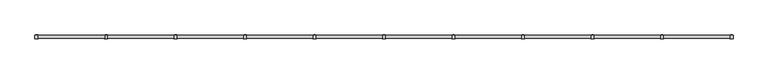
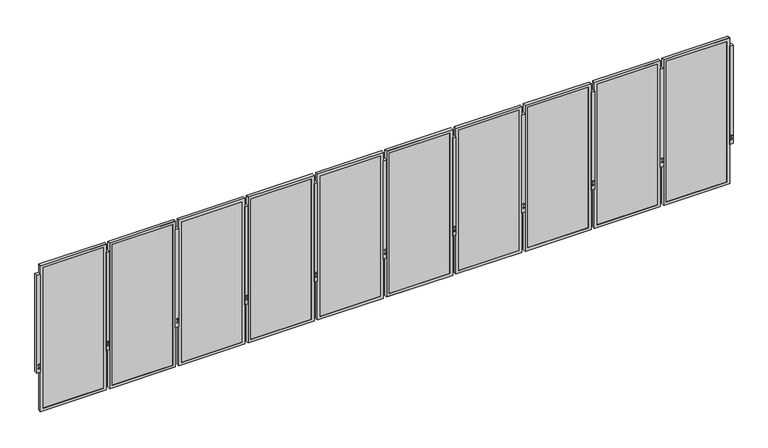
"""IFC4 building model written with IfcOpenShell, lengths in millimetres: railing geometry, Railing - Amico Architectural - Expanded Mesh Railing - Apex01."""

from ifc_helpers import new_model, si_unit, frame, origin, place, context, project, spatial, polyline, outline, extrude, faceted_brep, source, transform, mapped, element, save


def railing_5d727bff(model_context):
    return source(origin(), model_context, "Body", "SolidModel", [
        extrude(outline(polyline([(-18725.9443496, -22701.6627911), (-18675.1443496, -22701.6627911), (-18675.1443496, -22752.4627911), (-18725.9443496, -22752.4627911), (-18725.9443496, -22701.6627911)])), frame((0.0, 0.0, -609.6), z_axis=(0.0, 0.0, 1.0), x_axis=(1.0, 0.0, 0.0)), (0.0, 0.0, 1.0), 1524.0),
        extrude(outline(polyline([(-530.1129981, -18710.9649198), (-542.3802561, -18707.677918), (-545.667258, -18695.41066), (-536.6870019, -18686.4304038), (-524.4197439, -18689.7174057), (-521.132742, -18701.9846637), (-530.1129981, -18710.9649198)])), frame((0.0, -22754.3094789, 0.0), z_axis=(0.0, 1.0, 0.0), x_axis=(0.0, 0.0, 1.0)), (0.0, 0.0, 1.0), 54.4933756),
        extrude(outline(polyline([(-479.3129981, -18710.9649198), (-491.5802561, -18707.677918), (-494.867258, -18695.41066), (-485.8870019, -18686.4304038), (-473.6197439, -18689.7174057), (-470.332742, -18701.9846637), (-479.3129981, -18710.9649198)])), frame((0.0, -22754.3094789, 0.0), z_axis=(0.0, 1.0, 0.0), x_axis=(0.0, 0.0, 1.0)), (0.0, 0.0, 1.0), 54.4933756),
        faceted_brep([(-19692.348803, -22748.8559911, -1222.375), (-18723.973803, -22748.8559911, -1222.375), (-18723.973803, -22748.8559911, 1044.575), (-19692.348803, -22748.8559911, 1044.575), (-19651.073803, -22748.8559911, 1003.3), (-18765.248803, -22748.8559911, 1003.3), (-18765.248803, -22748.8559911, -1181.1), (-19651.073803, -22748.8559911, -1181.1), (-19651.073803, -22746.1127911, 1003.3), (-19651.073803, -22746.1127911, -1181.1), (-19692.348803, -22704.9826946, 1044.575), (-19692.348803, -22704.9826946, -1222.375), (-19689.173803, -22704.9826946, 1041.4), (-19689.173803, -22746.1127911, 1041.4), (-19689.173803, -22746.1127911, -1219.2), (-19689.173803, -22704.9826946, -1219.2), (-18765.248803, -22746.1127911, -1181.1), (-18723.973803, -22704.9826946, -1222.375), (-18727.148803, -22746.1127911, -1219.2), (-18727.148803, -22704.9826946, -1219.2), (-18765.248803, -22746.1127911, 1003.3), (-18723.973803, -22704.9826946, 1044.575), (-18727.148803, -22746.1127911, 1041.4), (-18727.148803, -22704.9826946, 1041.4)], [[[0, 1, 2, 3], [4, 5, 6, 7]], [[8, 4, 7, 9]], [[3, 10, 11, 0]], [[12, 13, 14, 15]], [[9, 7, 6, 16]], [[0, 11, 17, 1]], [[15, 14, 18, 19]], [[16, 6, 5, 20]], [[1, 17, 21, 2]], [[19, 18, 22, 23]], [[20, 5, 4, 8]], [[10, 21, 17, 11], [15, 19, 23, 12]], [[2, 21, 10, 3]], [[13, 22, 18, 14], [9, 16, 20, 8]], [[23, 22, 13, 12]]]),
        extrude(outline(polyline([(-19689.173803, -22736.5877911), (-18727.148803, -22736.5877911), (-18727.148803, -22746.1127911), (-19689.173803, -22746.1127911), (-19689.173803, -22736.5877911)])), frame((0.0, 0.0, -1219.2), z_axis=(0.0, 0.0, 1.0), x_axis=(1.0, 0.0, 0.0)), (0.0, 0.0, 1.0), 2260.6),
        extrude(outline(polyline([(-19743.5318496, -22701.6627911), (-19692.7318496, -22701.6627911), (-19692.7318496, -22752.4627911), (-19743.5318496, -22752.4627911), (-19743.5318496, -22701.6627911)])), frame((0.0, 0.0, -609.6), z_axis=(0.0, 0.0, 1.0), x_axis=(1.0, 0.0, 0.0)), (0.0, 0.0, 1.0), 1524.0),
        extrude(outline(polyline([(-530.1129981, -19728.5524198), (-542.3802561, -19725.265418), (-545.667258, -19712.99816), (-536.6870019, -19704.0179038), (-524.4197439, -19707.3049057), (-521.132742, -19719.5721637), (-530.1129981, -19728.5524198)])), frame((0.0, -22754.3094789, 0.0), z_axis=(0.0, 1.0, 0.0), x_axis=(0.0, 0.0, 1.0)), (0.0, 0.0, 1.0), 54.4933756),
        extrude(outline(polyline([(-479.3129981, -19728.5524198), (-491.5802561, -19725.265418), (-494.867258, -19712.99816), (-485.8870019, -19704.0179038), (-473.6197439, -19707.3049057), (-470.332742, -19719.5721637), (-479.3129981, -19728.5524198)])), frame((0.0, -22754.3094789, 0.0), z_axis=(0.0, 1.0, 0.0), x_axis=(0.0, 0.0, 1.0)), (0.0, 0.0, 1.0), 54.4933756),
        faceted_brep([(-20709.936303, -22748.8559911, -1222.375), (-19741.561303, -22748.8559911, -1222.375), (-19741.561303, -22748.8559911, 1044.575), (-20709.936303, -22748.8559911, 1044.575), (-20668.661303, -22748.8559911, 1003.3), (-19782.836303, -22748.8559911, 1003.3), (-19782.836303, -22748.8559911, -1181.1), (-20668.661303, -22748.8559911, -1181.1), (-20668.661303, -22746.1127911, 1003.3), (-20668.661303, -22746.1127911, -1181.1), (-20709.936303, -22704.9826946, 1044.575), (-20709.936303, -22704.9826946, -1222.375), (-20706.761303, -22704.9826946, 1041.4), (-20706.761303, -22746.1127911, 1041.4), (-20706.761303, -22746.1127911, -1219.2), (-20706.761303, -22704.9826946, -1219.2), (-19782.836303, -22746.1127911, -1181.1), (-19741.561303, -22704.9826946, -1222.375), (-19744.736303, -22746.1127911, -1219.2), (-19744.736303, -22704.9826946, -1219.2), (-19782.836303, -22746.1127911, 1003.3), (-19741.561303, -22704.9826946, 1044.575), (-19744.736303, -22746.1127911, 1041.4), (-19744.736303, -22704.9826946, 1041.4)], [[[0, 1, 2, 3], [4, 5, 6, 7]], [[8, 4, 7, 9]], [[3, 10, 11, 0]], [[12, 13, 14, 15]], [[9, 7, 6, 16]], [[0, 11, 17, 1]], [[15, 14, 18, 19]], [[16, 6, 5, 20]], [[1, 17, 21, 2]], [[19, 18, 22, 23]], [[20, 5, 4, 8]], [[10, 21, 17, 11], [15, 19, 23, 12]], [[2, 21, 10, 3]], [[13, 22, 18, 14], [9, 16, 20, 8]], [[23, 22, 13, 12]]]),
        extrude(outline(polyline([(-20706.761303, -22736.5877911), (-19744.736303, -22736.5877911), (-19744.736303, -22746.1127911), (-20706.761303, -22746.1127911), (-20706.761303, -22736.5877911)])), frame((0.0, 0.0, -1219.2), z_axis=(0.0, 0.0, 1.0), x_axis=(1.0, 0.0, 0.0)), (0.0, 0.0, 1.0), 2260.6),
        extrude(outline(polyline([(-20761.1193496, -22701.6627911), (-20710.3193496, -22701.6627911), (-20710.3193496, -22752.4627911), (-20761.1193496, -22752.4627911), (-20761.1193496, -22701.6627911)])), frame((0.0, 0.0, -609.6), z_axis=(0.0, 0.0, 1.0), x_axis=(1.0, 0.0, 0.0)), (0.0, 0.0, 1.0), 1524.0),
        extrude(outline(polyline([(-530.1129981, -20746.1399198), (-542.3802561, -20742.852918), (-545.667258, -20730.58566), (-536.6870019, -20721.6054038), (-524.4197439, -20724.8924057), (-521.132742, -20737.1596637), (-530.1129981, -20746.1399198)])), frame((0.0, -22754.3094789, 0.0), z_axis=(0.0, 1.0, 0.0), x_axis=(0.0, 0.0, 1.0)), (0.0, 0.0, 1.0), 54.4933756),
        extrude(outline(polyline([(-479.3129981, -20746.1399198), (-491.5802561, -20742.852918), (-494.867258, -20730.58566), (-485.8870019, -20721.6054038), (-473.6197439, -20724.8924057), (-470.332742, -20737.1596637), (-479.3129981, -20746.1399198)])), frame((0.0, -22754.3094789, 0.0), z_axis=(0.0, 1.0, 0.0), x_axis=(0.0, 0.0, 1.0)), (0.0, 0.0, 1.0), 54.4933756),
        faceted_brep([(-21727.523803, -22748.8559911, -1222.375), (-20759.148803, -22748.8559911, -1222.375), (-20759.148803, -22748.8559911, 1044.575), (-21727.523803, -22748.8559911, 1044.575), (-21686.248803, -22748.8559911, 1003.3), (-20800.423803, -22748.8559911, 1003.3), (-20800.423803, -22748.8559911, -1181.1), (-21686.248803, -22748.8559911, -1181.1), (-21686.248803, -22746.1127911, 1003.3), (-21686.248803, -22746.1127911, -1181.1), (-21727.523803, -22704.9826946, 1044.575), (-21727.523803, -22704.9826946, -1222.375), (-21724.348803, -22704.9826946, 1041.4), (-21724.348803, -22746.1127911, 1041.4), (-21724.348803, -22746.1127911, -1219.2), (-21724.348803, -22704.9826946, -1219.2), (-20800.423803, -22746.1127911, -1181.1), (-20759.148803, -22704.9826946, -1222.375), (-20762.323803, -22746.1127911, -1219.2), (-20762.323803, -22704.9826946, -1219.2), (-20800.423803, -22746.1127911, 1003.3), (-20759.148803, -22704.9826946, 1044.575), (-20762.323803, -22746.1127911, 1041.4), (-20762.323803, -22704.9826946, 1041.4)], [[[0, 1, 2, 3], [4, 5, 6, 7]], [[8, 4, 7, 9]], [[3, 10, 11, 0]], [[12, 13, 14, 15]], [[9, 7, 6, 16]], [[0, 11, 17, 1]], [[15, 14, 18, 19]], [[16, 6, 5, 20]], [[1, 17, 21, 2]], [[19, 18, 22, 23]], [[20, 5, 4, 8]], [[10, 21, 17, 11], [15, 19, 23, 12]], [[2, 21, 10, 3]], [[13, 22, 18, 14], [9, 16, 20, 8]], [[23, 22, 13, 12]]]),
        extrude(outline(polyline([(-21724.348803, -22736.5877911), (-20762.323803, -22736.5877911), (-20762.323803, -22746.1127911), (-21724.348803, -22746.1127911), (-21724.348803, -22736.5877911)])), frame((0.0, 0.0, -1219.2), z_axis=(0.0, 0.0, 1.0), x_axis=(1.0, 0.0, 0.0)), (0.0, 0.0, 1.0), 2260.6),
        extrude(outline(polyline([(-21778.7068496, -22701.6627911), (-21727.9068496, -22701.6627911), (-21727.9068496, -22752.4627911), (-21778.7068496, -22752.4627911), (-21778.7068496, -22701.6627911)])), frame((0.0, 0.0, -609.6), z_axis=(0.0, 0.0, 1.0), x_axis=(1.0, 0.0, 0.0)), (0.0, 0.0, 1.0), 1524.0),
        extrude(outline(polyline([(-530.1129981, -21763.7274198), (-542.3802561, -21760.440418), (-545.667258, -21748.17316), (-536.6870019, -21739.1929038), (-524.4197439, -21742.4799057), (-521.132742, -21754.7471637), (-530.1129981, -21763.7274198)])), frame((0.0, -22754.3094789, 0.0), z_axis=(0.0, 1.0, 0.0), x_axis=(0.0, 0.0, 1.0)), (0.0, 0.0, 1.0), 54.4933756),
        extrude(outline(polyline([(-479.3129981, -21763.7274198), (-491.5802561, -21760.440418), (-494.867258, -21748.17316), (-485.8870019, -21739.1929038), (-473.6197439, -21742.4799057), (-470.332742, -21754.7471637), (-479.3129981, -21763.7274198)])), frame((0.0, -22754.3094789, 0.0), z_axis=(0.0, 1.0, 0.0), x_axis=(0.0, 0.0, 1.0)), (0.0, 0.0, 1.0), 54.4933756),
        faceted_brep([(-22745.111303, -22748.8559911, -1222.375), (-21776.736303, -22748.8559911, -1222.375), (-21776.736303, -22748.8559911, 1044.575), (-22745.111303, -22748.8559911, 1044.575), (-22703.836303, -22748.8559911, 1003.3), (-21818.011303, -22748.8559911, 1003.3), (-21818.011303, -22748.8559911, -1181.1), (-22703.836303, -22748.8559911, -1181.1), (-22703.836303, -22746.1127911, 1003.3), (-22703.836303, -22746.1127911, -1181.1), (-22745.111303, -22704.9826946, 1044.575), (-22745.111303, -22704.9826946, -1222.375), (-22741.936303, -22704.9826946, 1041.4), (-22741.936303, -22746.1127911, 1041.4), (-22741.936303, -22746.1127911, -1219.2), (-22741.936303, -22704.9826946, -1219.2), (-21818.011303, -22746.1127911, -1181.1), (-21776.736303, -22704.9826946, -1222.375), (-21779.911303, -22746.1127911, -1219.2), (-21779.911303, -22704.9826946, -1219.2), (-21818.011303, -22746.1127911, 1003.3), (-21776.736303, -22704.9826946, 1044.575), (-21779.911303, -22746.1127911, 1041.4), (-21779.911303, -22704.9826946, 1041.4)], [[[0, 1, 2, 3], [4, 5, 6, 7]], [[8, 4, 7, 9]], [[3, 10, 11, 0]], [[12, 13, 14, 15]], [[9, 7, 6, 16]], [[0, 11, 17, 1]], [[15, 14, 18, 19]], [[16, 6, 5, 20]], [[1, 17, 21, 2]], [[19, 18, 22, 23]], [[20, 5, 4, 8]], [[10, 21, 17, 11], [15, 19, 23, 12]], [[2, 21, 10, 3]], [[13, 22, 18, 14], [9, 16, 20, 8]], [[23, 22, 13, 12]]]),
        extrude(outline(polyline([(-22741.936303, -22736.5877911), (-21779.911303, -22736.5877911), (-21779.911303, -22746.1127911), (-22741.936303, -22746.1127911), (-22741.936303, -22736.5877911)])), frame((0.0, 0.0, -1219.2), z_axis=(0.0, 0.0, 1.0), x_axis=(1.0, 0.0, 0.0)), (0.0, 0.0, 1.0), 2260.6),
        extrude(outline(polyline([(-22796.2943496, -22701.6627911), (-22745.4943496, -22701.6627911), (-22745.4943496, -22752.4627911), (-22796.2943496, -22752.4627911), (-22796.2943496, -22701.6627911)])), frame((0.0, 0.0, -609.6), z_axis=(0.0, 0.0, 1.0), x_axis=(1.0, 0.0, 0.0)), (0.0, 0.0, 1.0), 1524.0),
        extrude(outline(polyline([(-530.1129981, -22781.3149198), (-542.3802561, -22778.027918), (-545.667258, -22765.76066), (-536.6870019, -22756.7804038), (-524.4197439, -22760.0674057), (-521.132742, -22772.3346637), (-530.1129981, -22781.3149198)])), frame((0.0, -22754.3094789, 0.0), z_axis=(0.0, 1.0, 0.0), x_axis=(0.0, 0.0, 1.0)), (0.0, 0.0, 1.0), 54.4933756),
        extrude(outline(polyline([(-479.3129981, -22781.3149198), (-491.5802561, -22778.027918), (-494.867258, -22765.76066), (-485.8870019, -22756.7804038), (-473.6197439, -22760.0674057), (-470.332742, -22772.3346637), (-479.3129981, -22781.3149198)])), frame((0.0, -22754.3094789, 0.0), z_axis=(0.0, 1.0, 0.0), x_axis=(0.0, 0.0, 1.0)), (0.0, 0.0, 1.0), 54.4933756),
        faceted_brep([(-23762.698803, -22748.8559911, -1222.375), (-22794.323803, -22748.8559911, -1222.375), (-22794.323803, -22748.8559911, 1044.575), (-23762.698803, -22748.8559911, 1044.575), (-23721.423803, -22748.8559911, 1003.3), (-22835.598803, -22748.8559911, 1003.3), (-22835.598803, -22748.8559911, -1181.1), (-23721.423803, -22748.8559911, -1181.1), (-23721.423803, -22746.1127911, 1003.3), (-23721.423803, -22746.1127911, -1181.1), (-23762.698803, -22704.9826946, 1044.575), (-23762.698803, -22704.9826946, -1222.375), (-23759.523803, -22704.9826946, 1041.4), (-23759.523803, -22746.1127911, 1041.4), (-23759.523803, -22746.1127911, -1219.2), (-23759.523803, -22704.9826946, -1219.2), (-22835.598803, -22746.1127911, -1181.1), (-22794.323803, -22704.9826946, -1222.375), (-22797.498803, -22746.1127911, -1219.2), (-22797.498803, -22704.9826946, -1219.2), (-22835.598803, -22746.1127911, 1003.3), (-22794.323803, -22704.9826946, 1044.575), (-22797.498803, -22746.1127911, 1041.4), (-22797.498803, -22704.9826946, 1041.4)], [[[0, 1, 2, 3], [4, 5, 6, 7]], [[8, 4, 7, 9]], [[3, 10, 11, 0]], [[12, 13, 14, 15]], [[9, 7, 6, 16]], [[0, 11, 17, 1]], [[15, 14, 18, 19]], [[16, 6, 5, 20]], [[1, 17, 21, 2]], [[19, 18, 22, 23]], [[20, 5, 4, 8]], [[10, 21, 17, 11], [15, 19, 23, 12]], [[2, 21, 10, 3]], [[13, 22, 18, 14], [9, 16, 20, 8]], [[23, 22, 13, 12]]]),
        extrude(outline(polyline([(-23759.523803, -22736.5877911), (-22797.498803, -22736.5877911), (-22797.498803, -22746.1127911), (-23759.523803, -22746.1127911), (-23759.523803, -22736.5877911)])), frame((0.0, 0.0, -1219.2), z_axis=(0.0, 0.0, 1.0), x_axis=(1.0, 0.0, 0.0)), (0.0, 0.0, 1.0), 2260.6),
        extrude(outline(polyline([(-23813.8818496, -22701.6627911), (-23763.0818496, -22701.6627911), (-23763.0818496, -22752.4627911), (-23813.8818496, -22752.4627911), (-23813.8818496, -22701.6627911)])), frame((0.0, 0.0, -609.6), z_axis=(0.0, 0.0, 1.0), x_axis=(1.0, 0.0, 0.0)), (0.0, 0.0, 1.0), 1524.0),
        extrude(outline(polyline([(-530.1129981, -23798.9024198), (-542.3802561, -23795.615418), (-545.667258, -23783.34816), (-536.6870019, -23774.3679038), (-524.4197439, -23777.6549057), (-521.132742, -23789.9221637), (-530.1129981, -23798.9024198)])), frame((0.0, -22754.3094789, 0.0), z_axis=(0.0, 1.0, 0.0), x_axis=(0.0, 0.0, 1.0)), (0.0, 0.0, 1.0), 54.4933756),
        extrude(outline(polyline([(-479.3129981, -23798.9024198), (-491.5802561, -23795.615418), (-494.867258, -23783.34816), (-485.8870019, -23774.3679038), (-473.6197439, -23777.6549057), (-470.332742, -23789.9221637), (-479.3129981, -23798.9024198)])), frame((0.0, -22754.3094789, 0.0), z_axis=(0.0, 1.0, 0.0), x_axis=(0.0, 0.0, 1.0)), (0.0, 0.0, 1.0), 54.4933756),
        faceted_brep([(-24780.286303, -22748.8559911, -1222.375), (-23811.911303, -22748.8559911, -1222.375), (-23811.911303, -22748.8559911, 1044.575), (-24780.286303, -22748.8559911, 1044.575), (-24739.011303, -22748.8559911, 1003.3), (-23853.186303, -22748.8559911, 1003.3), (-23853.186303, -22748.8559911, -1181.1), (-24739.011303, -22748.8559911, -1181.1), (-24739.011303, -22746.1127911, 1003.3), (-24739.011303, -22746.1127911, -1181.1), (-24780.286303, -22704.9826946, 1044.575), (-24780.286303, -22704.9826946, -1222.375), (-24777.111303, -22704.9826946, 1041.4), (-24777.111303, -22746.1127911, 1041.4), (-24777.111303, -22746.1127911, -1219.2), (-24777.111303, -22704.9826946, -1219.2), (-23853.186303, -22746.1127911, -1181.1), (-23811.911303, -22704.9826946, -1222.375), (-23815.086303, -22746.1127911, -1219.2), (-23815.086303, -22704.9826946, -1219.2), (-23853.186303, -22746.1127911, 1003.3), (-23811.911303, -22704.9826946, 1044.575), (-23815.086303, -22746.1127911, 1041.4), (-23815.086303, -22704.9826946, 1041.4)], [[[0, 1, 2, 3], [4, 5, 6, 7]], [[8, 4, 7, 9]], [[3, 10, 11, 0]], [[12, 13, 14, 15]], [[9, 7, 6, 16]], [[0, 11, 17, 1]], [[15, 14, 18, 19]], [[16, 6, 5, 20]], [[1, 17, 21, 2]], [[19, 18, 22, 23]], [[20, 5, 4, 8]], [[10, 21, 17, 11], [15, 19, 23, 12]], [[2, 21, 10, 3]], [[13, 22, 18, 14], [9, 16, 20, 8]], [[23, 22, 13, 12]]]),
        extrude(outline(polyline([(-24777.111303, -22736.5877911), (-23815.086303, -22736.5877911), (-23815.086303, -22746.1127911), (-24777.111303, -22746.1127911), (-24777.111303, -22736.5877911)])), frame((0.0, 0.0, -1219.2), z_axis=(0.0, 0.0, 1.0), x_axis=(1.0, 0.0, 0.0)), (0.0, 0.0, 1.0), 2260.6),
        extrude(outline(polyline([(-24831.4693496, -22701.6627911), (-24780.6693496, -22701.6627911), (-24780.6693496, -22752.4627911), (-24831.4693496, -22752.4627911), (-24831.4693496, -22701.6627911)])), frame((0.0, 0.0, -609.6), z_axis=(0.0, 0.0, 1.0), x_axis=(1.0, 0.0, 0.0)), (0.0, 0.0, 1.0), 1524.0),
        extrude(outline(polyline([(-530.1129981, -24816.4899198), (-542.3802561, -24813.202918), (-545.667258, -24800.93566), (-536.6870019, -24791.9554038), (-524.4197439, -24795.2424057), (-521.132742, -24807.5096637), (-530.1129981, -24816.4899198)])), frame((0.0, -22754.3094789, 0.0), z_axis=(0.0, 1.0, 0.0), x_axis=(0.0, 0.0, 1.0)), (0.0, 0.0, 1.0), 54.4933756),
        extrude(outline(polyline([(-479.3129981, -24816.4899198), (-491.5802561, -24813.202918), (-494.867258, -24800.93566), (-485.8870019, -24791.9554038), (-473.6197439, -24795.2424057), (-470.332742, -24807.5096637), (-479.3129981, -24816.4899198)])), frame((0.0, -22754.3094789, 0.0), z_axis=(0.0, 1.0, 0.0), x_axis=(0.0, 0.0, 1.0)), (0.0, 0.0, 1.0), 54.4933756),
        faceted_brep([(-25797.873803, -22748.8559911, -1222.375), (-24829.498803, -22748.8559911, -1222.375), (-24829.498803, -22748.8559911, 1044.575), (-25797.873803, -22748.8559911, 1044.575), (-25756.598803, -22748.8559911, 1003.3), (-24870.773803, -22748.8559911, 1003.3), (-24870.773803, -22748.8559911, -1181.1), (-25756.598803, -22748.8559911, -1181.1), (-25756.598803, -22746.1127911, 1003.3), (-25756.598803, -22746.1127911, -1181.1), (-25797.873803, -22704.9826946, 1044.575), (-25797.873803, -22704.9826946, -1222.375), (-25794.698803, -22704.9826946, 1041.4), (-25794.698803, -22746.1127911, 1041.4), (-25794.698803, -22746.1127911, -1219.2), (-25794.698803, -22704.9826946, -1219.2), (-24870.773803, -22746.1127911, -1181.1), (-24829.498803, -22704.9826946, -1222.375), (-24832.673803, -22746.1127911, -1219.2), (-24832.673803, -22704.9826946, -1219.2), (-24870.773803, -22746.1127911, 1003.3), (-24829.498803, -22704.9826946, 1044.575), (-24832.673803, -22746.1127911, 1041.4), (-24832.673803, -22704.9826946, 1041.4)], [[[0, 1, 2, 3], [4, 5, 6, 7]], [[8, 4, 7, 9]], [[3, 10, 11, 0]], [[12, 13, 14, 15]], [[9, 7, 6, 16]], [[0, 11, 17, 1]], [[15, 14, 18, 19]], [[16, 6, 5, 20]], [[1, 17, 21, 2]], [[19, 18, 22, 23]], [[20, 5, 4, 8]], [[10, 21, 17, 11], [15, 19, 23, 12]], [[2, 21, 10, 3]], [[13, 22, 18, 14], [9, 16, 20, 8]], [[23, 22, 13, 12]]]),
        extrude(outline(polyline([(-25794.698803, -22736.5877911), (-24832.673803, -22736.5877911), (-24832.673803, -22746.1127911), (-25794.698803, -22746.1127911), (-25794.698803, -22736.5877911)])), frame((0.0, 0.0, -1219.2), z_axis=(0.0, 0.0, 1.0), x_axis=(1.0, 0.0, 0.0)), (0.0, 0.0, 1.0), 2260.6),
        extrude(outline(polyline([(-25849.0568496, -22701.6627911), (-25798.2568496, -22701.6627911), (-25798.2568496, -22752.4627911), (-25849.0568496, -22752.4627911), (-25849.0568496, -22701.6627911)])), frame((0.0, 0.0, -609.6), z_axis=(0.0, 0.0, 1.0), x_axis=(1.0, 0.0, 0.0)), (0.0, 0.0, 1.0), 1524.0),
        extrude(outline(polyline([(-530.1129981, -25834.0774198), (-542.3802561, -25830.790418), (-545.667258, -25818.52316), (-536.6870019, -25809.5429038), (-524.4197439, -25812.8299057), (-521.132742, -25825.0971637), (-530.1129981, -25834.0774198)])), frame((0.0, -22754.3094789, 0.0), z_axis=(0.0, 1.0, 0.0), x_axis=(0.0, 0.0, 1.0)), (0.0, 0.0, 1.0), 54.4933756),
        extrude(outline(polyline([(-479.3129981, -25834.0774198), (-491.5802561, -25830.790418), (-494.867258, -25818.52316), (-485.8870019, -25809.5429038), (-473.6197439, -25812.8299057), (-470.332742, -25825.0971637), (-479.3129981, -25834.0774198)])), frame((0.0, -22754.3094789, 0.0), z_axis=(0.0, 1.0, 0.0), x_axis=(0.0, 0.0, 1.0)), (0.0, 0.0, 1.0), 54.4933756),
        faceted_brep([(-26815.461303, -22748.8559911, -1222.375), (-25847.086303, -22748.8559911, -1222.375), (-25847.086303, -22748.8559911, 1044.575), (-26815.461303, -22748.8559911, 1044.575), (-26774.186303, -22748.8559911, 1003.3), (-25888.361303, -22748.8559911, 1003.3), (-25888.361303, -22748.8559911, -1181.1), (-26774.186303, -22748.8559911, -1181.1), (-26774.186303, -22746.1127911, 1003.3), (-26774.186303, -22746.1127911, -1181.1), (-26815.461303, -22704.9826946, 1044.575), (-26815.461303, -22704.9826946, -1222.375), (-26812.286303, -22704.9826946, 1041.4), (-26812.286303, -22746.1127911, 1041.4), (-26812.286303, -22746.1127911, -1219.2), (-26812.286303, -22704.9826946, -1219.2), (-25888.361303, -22746.1127911, -1181.1), (-25847.086303, -22704.9826946, -1222.375), (-25850.261303, -22746.1127911, -1219.2), (-25850.261303, -22704.9826946, -1219.2), (-25888.361303, -22746.1127911, 1003.3), (-25847.086303, -22704.9826946, 1044.575), (-25850.261303, -22746.1127911, 1041.4), (-25850.261303, -22704.9826946, 1041.4)], [[[0, 1, 2, 3], [4, 5, 6, 7]], [[8, 4, 7, 9]], [[3, 10, 11, 0]], [[12, 13, 14, 15]], [[9, 7, 6, 16]], [[0, 11, 17, 1]], [[15, 14, 18, 19]], [[16, 6, 5, 20]], [[1, 17, 21, 2]], [[19, 18, 22, 23]], [[20, 5, 4, 8]], [[10, 21, 17, 11], [15, 19, 23, 12]], [[2, 21, 10, 3]], [[13, 22, 18, 14], [9, 16, 20, 8]], [[23, 22, 13, 12]]]),
        extrude(outline(polyline([(-26812.286303, -22736.5877911), (-25850.261303, -22736.5877911), (-25850.261303, -22746.1127911), (-26812.286303, -22746.1127911), (-26812.286303, -22736.5877911)])), frame((0.0, 0.0, -1219.2), z_axis=(0.0, 0.0, 1.0), x_axis=(1.0, 0.0, 0.0)), (0.0, 0.0, 1.0), 2260.6),
        extrude(outline(polyline([(-26866.6443496, -22701.6627911), (-26815.8443496, -22701.6627911), (-26815.8443496, -22752.4627911), (-26866.6443496, -22752.4627911), (-26866.6443496, -22701.6627911)])), frame((0.0, 0.0, -609.6), z_axis=(0.0, 0.0, 1.0), x_axis=(1.0, 0.0, 0.0)), (0.0, 0.0, 1.0), 1524.0),
        extrude(outline(polyline([(-530.1129981, -26851.6649198), (-542.3802561, -26848.377918), (-545.667258, -26836.11066), (-536.6870019, -26827.1304038), (-524.4197439, -26830.4174057), (-521.132742, -26842.6846637), (-530.1129981, -26851.6649198)])), frame((0.0, -22754.3094789, 0.0), z_axis=(0.0, 1.0, 0.0), x_axis=(0.0, 0.0, 1.0)), (0.0, 0.0, 1.0), 54.4933756),
        extrude(outline(polyline([(-479.3129981, -26851.6649198), (-491.5802561, -26848.377918), (-494.867258, -26836.11066), (-485.8870019, -26827.1304038), (-473.6197439, -26830.4174057), (-470.332742, -26842.6846637), (-479.3129981, -26851.6649198)])), frame((0.0, -22754.3094789, 0.0), z_axis=(0.0, 1.0, 0.0), x_axis=(0.0, 0.0, 1.0)), (0.0, 0.0, 1.0), 54.4933756),
        faceted_brep([(-27833.048803, -22748.8559911, -1222.375), (-26864.673803, -22748.8559911, -1222.375), (-26864.673803, -22748.8559911, 1044.575), (-27833.048803, -22748.8559911, 1044.575), (-27791.773803, -22748.8559911, 1003.3), (-26905.948803, -22748.8559911, 1003.3), (-26905.948803, -22748.8559911, -1181.1), (-27791.773803, -22748.8559911, -1181.1), (-27791.773803, -22746.1127911, 1003.3), (-27791.773803, -22746.1127911, -1181.1), (-27833.048803, -22704.9826946, 1044.575), (-27833.048803, -22704.9826946, -1222.375), (-27829.873803, -22704.9826946, 1041.4), (-27829.873803, -22746.1127911, 1041.4), (-27829.873803, -22746.1127911, -1219.2), (-27829.873803, -22704.9826946, -1219.2), (-26905.948803, -22746.1127911, -1181.1), (-26864.673803, -22704.9826946, -1222.375), (-26867.848803, -22746.1127911, -1219.2), (-26867.848803, -22704.9826946, -1219.2), (-26905.948803, -22746.1127911, 1003.3), (-26864.673803, -22704.9826946, 1044.575), (-26867.848803, -22746.1127911, 1041.4), (-26867.848803, -22704.9826946, 1041.4)], [[[0, 1, 2, 3], [4, 5, 6, 7]], [[8, 4, 7, 9]], [[3, 10, 11, 0]], [[12, 13, 14, 15]], [[9, 7, 6, 16]], [[0, 11, 17, 1]], [[15, 14, 18, 19]], [[16, 6, 5, 20]], [[1, 17, 21, 2]], [[19, 18, 22, 23]], [[20, 5, 4, 8]], [[10, 21, 17, 11], [15, 19, 23, 12]], [[2, 21, 10, 3]], [[13, 22, 18, 14], [9, 16, 20, 8]], [[23, 22, 13, 12]]]),
        extrude(outline(polyline([(-27829.873803, -22736.5877911), (-26867.848803, -22736.5877911), (-26867.848803, -22746.1127911), (-27829.873803, -22746.1127911), (-27829.873803, -22736.5877911)])), frame((0.0, 0.0, -1219.2), z_axis=(0.0, 0.0, 1.0), x_axis=(1.0, 0.0, 0.0)), (0.0, 0.0, 1.0), 2260.6),
        extrude(outline(polyline([(-27884.2318496, -22701.6627911), (-27833.4318496, -22701.6627911), (-27833.4318496, -22752.4627911), (-27884.2318496, -22752.4627911), (-27884.2318496, -22701.6627911)])), frame((0.0, 0.0, -609.6), z_axis=(0.0, 0.0, 1.0), x_axis=(1.0, 0.0, 0.0)), (0.0, 0.0, 1.0), 1524.0),
        extrude(outline(polyline([(-530.1129981, -27869.2524198), (-542.3802561, -27865.965418), (-545.667258, -27853.69816), (-536.6870019, -27844.7179038), (-524.4197439, -27848.0049057), (-521.132742, -27860.2721637), (-530.1129981, -27869.2524198)])), frame((0.0, -22754.3094789, 0.0), z_axis=(0.0, 1.0, 0.0), x_axis=(0.0, 0.0, 1.0)), (0.0, 0.0, 1.0), 54.4933756),
        extrude(outline(polyline([(-479.3129981, -27869.2524198), (-491.5802561, -27865.965418), (-494.867258, -27853.69816), (-485.8870019, -27844.7179038), (-473.6197439, -27848.0049057), (-470.332742, -27860.2721637), (-479.3129981, -27869.2524198)])), frame((0.0, -22754.3094789, 0.0), z_axis=(0.0, 1.0, 0.0), x_axis=(0.0, 0.0, 1.0)), (0.0, 0.0, 1.0), 54.4933756),
        faceted_brep([(-28850.636303, -22748.8559911, -1222.375), (-27882.261303, -22748.8559911, -1222.375), (-27882.261303, -22748.8559911, 1044.575), (-28850.636303, -22748.8559911, 1044.575), (-28809.361303, -22748.8559911, 1003.3), (-27923.536303, -22748.8559911, 1003.3), (-27923.536303, -22748.8559911, -1181.1), (-28809.361303, -22748.8559911, -1181.1), (-28809.361303, -22746.1127911, 1003.3), (-28809.361303, -22746.1127911, -1181.1), (-28850.636303, -22704.9826946, 1044.575), (-28850.636303, -22704.9826946, -1222.375), (-28847.461303, -22704.9826946, 1041.4), (-28847.461303, -22746.1127911, 1041.4), (-28847.461303, -22746.1127911, -1219.2), (-28847.461303, -22704.9826946, -1219.2), (-27923.536303, -22746.1127911, -1181.1), (-27882.261303, -22704.9826946, -1222.375), (-27885.436303, -22746.1127911, -1219.2), (-27885.436303, -22704.9826946, -1219.2), (-27923.536303, -22746.1127911, 1003.3), (-27882.261303, -22704.9826946, 1044.575), (-27885.436303, -22746.1127911, 1041.4), (-27885.436303, -22704.9826946, 1041.4)], [[[0, 1, 2, 3], [4, 5, 6, 7]], [[8, 4, 7, 9]], [[3, 10, 11, 0]], [[12, 13, 14, 15]], [[9, 7, 6, 16]], [[0, 11, 17, 1]], [[15, 14, 18, 19]], [[16, 6, 5, 20]], [[1, 17, 21, 2]], [[19, 18, 22, 23]], [[20, 5, 4, 8]], [[10, 21, 17, 11], [15, 19, 23, 12]], [[2, 21, 10, 3]], [[13, 22, 18, 14], [9, 16, 20, 8]], [[23, 22, 13, 12]]]),
        extrude(outline(polyline([(-28847.461303, -22736.5877911), (-27885.436303, -22736.5877911), (-27885.436303, -22746.1127911), (-28847.461303, -22746.1127911), (-28847.461303, -22736.5877911)])), frame((0.0, 0.0, -1219.2), z_axis=(0.0, 0.0, 1.0), x_axis=(1.0, 0.0, 0.0)), (0.0, 0.0, 1.0), 2260.6),
        extrude(outline(polyline([(-28901.8193496, -22701.6627911), (-28851.0193496, -22701.6627911), (-28851.0193496, -22752.4627911), (-28901.8193496, -22752.4627911), (-28901.8193496, -22701.6627911)])), frame((0.0, 0.0, -609.6), z_axis=(0.0, 0.0, 1.0), x_axis=(1.0, 0.0, 0.0)), (0.0, 0.0, 1.0), 1524.0),
        extrude(outline(polyline([(-530.1129981, -28886.8399198), (-542.3802561, -28883.552918), (-545.667258, -28871.28566), (-536.6870019, -28862.3054038), (-524.4197439, -28865.5924057), (-521.132742, -28877.8596637), (-530.1129981, -28886.8399198)])), frame((0.0, -22754.3094789, 0.0), z_axis=(0.0, 1.0, 0.0), x_axis=(0.0, 0.0, 1.0)), (0.0, 0.0, 1.0), 54.4933756),
        extrude(outline(polyline([(-479.3129981, -28886.8399198), (-491.5802561, -28883.552918), (-494.867258, -28871.28566), (-485.8870019, -28862.3054038), (-473.6197439, -28865.5924057), (-470.332742, -28877.8596637), (-479.3129981, -28886.8399198)])), frame((0.0, -22754.3094789, 0.0), z_axis=(0.0, 1.0, 0.0), x_axis=(0.0, 0.0, 1.0)), (0.0, 0.0, 1.0), 54.4933756),
    ])


if __name__ == "__main__":
    model = new_model("IFC4")
    model_context = context("Model", 3, world=origin())
    ifc_project = project(units=[si_unit("LENGTHUNIT", "METRE", prefix="MILLI")], contexts=[model_context])
    site = spatial("IfcSite", under=ifc_project)
    building = spatial("IfcBuilding", under=site)
    placement = place(None, origin())
    railing_shape = railing_5d727bff(model_context)
    element("IfcRailing", 1, ObjectType="Railing - Amico Architectural - Expanded Mesh Railing - Apex01", at=placement, inside=building, context=model_context, shape_type="MappedRepresentation", body=[
        mapped(railing_shape, transform((0.0, 0.0, 0.0), x_axis=(1.0, 0.0, 0.0), y_axis=(0.0, 1.0, 0.0), z_axis=(0.0, 0.0, 1.0))),
    ])
    save(model, "model.ifc")
